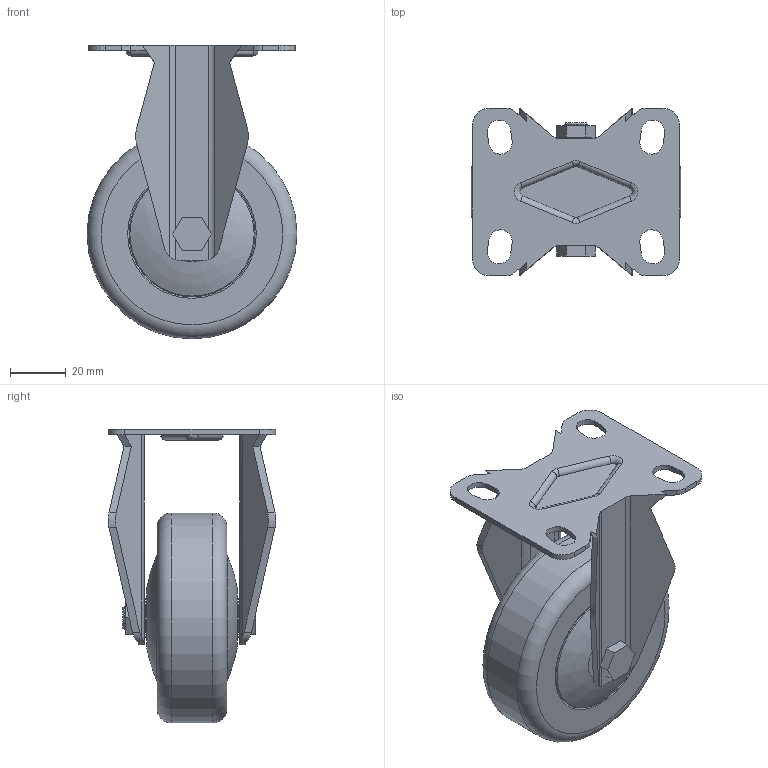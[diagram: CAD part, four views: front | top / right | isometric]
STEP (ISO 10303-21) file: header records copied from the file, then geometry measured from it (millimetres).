
FILE_DESCRIPTION(/* description */ (''),/* implementation_level */ '2;1');
FILE_NAME(/* name */ '20C21_3_F.stp',/* time_stamp */ '2022-10-06T15:22:58+08:00',/* author */ (''),/* organization */ (''),/* preprocessor_version */ 'ST-DEVELOPER v14',/* originating_system */ 'SIEMENS PLM Software NX 8.0',/* authorisation */ '');
FILE_SCHEMA (('AUTOMOTIVE_DESIGN { 1 0 10303 214 3 1 1 1 }'));
Length unit declared in the file: millimetre
Products named in the file (1): 20C21_3_F
Bounding box: 75 x 60 x 105 mm (x, y, z)
Volume: 134227.8 mm3; surface area: 33544 mm2
Topology: 1 solids, 1 shells, 324 faces, 881 edges, 584 vertices
Faces by surface type: plane 232, cylinder 75, torus 10, bspline 6, cone 1
Full cylindrical faces by diameter (mm): 8.2 x2, 8.466 x1, 14 x2, 45 x2, 75 x1
Entity records: 10448 total; most frequent: CARTESIAN_POINT 2623, ORIENTED_EDGE 1722, DIRECTION 1440, EDGE_CURVE 861, VERTEX_POINT 581, AXIS2_PLACEMENT_3D 502, LINE 436, VECTOR 436
